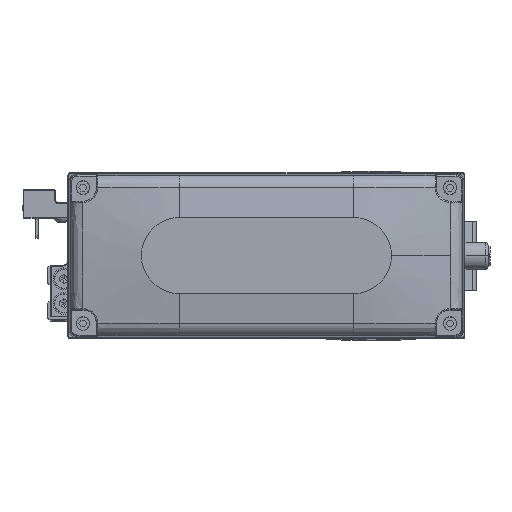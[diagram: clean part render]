
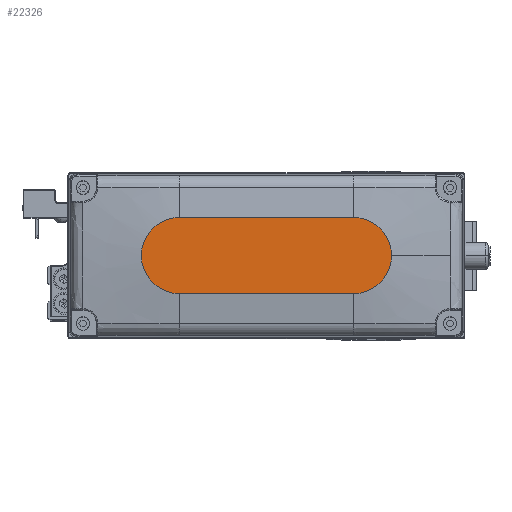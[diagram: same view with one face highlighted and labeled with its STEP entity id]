
A CAD part, top view. The second image highlights one B-rep face of the part: STEP entity #22326.
In plain terms, the highlighted planar face has unit normal (0, 0, 1).
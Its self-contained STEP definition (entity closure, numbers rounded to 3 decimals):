
#1236 = EDGE_CURVE ( 'NONE', #34013, #29548, #5911, .T. ) ;
#2373 = DIRECTION ( 'NONE',  ( 0., 0., 1. ) ) ;
#3106 = DIRECTION ( 'NONE',  ( 1., 0., 0. ) ) ;
#3791 = FACE_OUTER_BOUND ( 'NONE', #22240, .T. ) ;
#4772 = CARTESIAN_POINT ( 'NONE',  ( -32., 14., 35. ) ) ;
#5405 = ORIENTED_EDGE ( 'NONE', *, *, #42182, .T. ) ;
#5587 = CARTESIAN_POINT ( 'NONE',  ( -32., 0., 35. ) ) ;
#5911 = LINE ( 'NONE', #19418, #6299 ) ;
#6299 = VECTOR ( 'NONE', #32964, 1000. ) ;
#8098 = CIRCLE ( 'NONE', #32900, 14. ) ;
#10668 = DIRECTION ( 'NONE',  ( 0., 0., 1. ) ) ;
#11093 = DIRECTION ( 'NONE',  ( 1., 0., 0. ) ) ;
#12292 = AXIS2_PLACEMENT_3D ( 'NONE', #41079, #10668, #24179 ) ;
#13777 = ORIENTED_EDGE ( 'NONE', *, *, #1236, .T. ) ;
#14414 = AXIS2_PLACEMENT_3D ( 'NONE', #32748, #2373, #15889 ) ;
#14687 = CARTESIAN_POINT ( 'NONE',  ( -32., -14., 35. ) ) ;
#15889 = DIRECTION ( 'NONE',  ( 1., 0., 0. ) ) ;
#17417 = EDGE_CURVE ( 'NONE', #26121, #34478, #27945, .T. ) ;
#18158 = CIRCLE ( 'NONE', #42990, 14. ) ;
#19091 = DIRECTION ( 'NONE',  ( 0., 0., 1. ) ) ;
#19418 = CARTESIAN_POINT ( 'NONE',  ( -32., 14., 35. ) ) ;
#19953 = CARTESIAN_POINT ( 'NONE',  ( 32., 0., 35. ) ) ;
#22240 = EDGE_LOOP ( 'NONE', ( #13777, #26051, #42339, #41341, #5405 ) ) ;
#22326 = ADVANCED_FACE ( 'NONE', ( #3791 ), #27541, .T. ) ;
#22337 = VERTEX_POINT ( 'NONE', #31093 ) ;
#24179 = DIRECTION ( 'NONE',  ( 1., 0., 0. ) ) ;
#26051 = ORIENTED_EDGE ( 'NONE', *, *, #40081, .T. ) ;
#26121 = VERTEX_POINT ( 'NONE', #14687 ) ;
#27541 = PLANE ( 'NONE',  #12292 ) ;
#27945 = LINE ( 'NONE', #41482, #29482 ) ;
#28733 = CARTESIAN_POINT ( 'NONE',  ( 32., 14., 35. ) ) ;
#29482 = VECTOR ( 'NONE', #11093, 1000. ) ;
#29548 = VERTEX_POINT ( 'NONE', #4772 ) ;
#29934 = CARTESIAN_POINT ( 'NONE',  ( 32., -14., 35. ) ) ;
#31093 = CARTESIAN_POINT ( 'NONE',  ( 46., 0., 35. ) ) ;
#32628 = DIRECTION ( 'NONE',  ( 1., 0., 0. ) ) ;
#32748 = CARTESIAN_POINT ( 'NONE',  ( 32., 0., 35. ) ) ;
#32900 = AXIS2_PLACEMENT_3D ( 'NONE', #19953, #33494, #3106 ) ;
#32964 = DIRECTION ( 'NONE',  ( -1., 0., 0. ) ) ;
#33494 = DIRECTION ( 'NONE',  ( 0., 0., 1. ) ) ;
#33557 = CIRCLE ( 'NONE', #14414, 14. ) ;
#34013 = VERTEX_POINT ( 'NONE', #28733 ) ;
#34478 = VERTEX_POINT ( 'NONE', #29934 ) ;
#40081 = EDGE_CURVE ( 'NONE', #29548, #26121, #18158, .T. ) ;
#41079 = CARTESIAN_POINT ( 'NONE',  ( 0., 0., 35. ) ) ;
#41341 = ORIENTED_EDGE ( 'NONE', *, *, #42772, .T. ) ;
#41482 = CARTESIAN_POINT ( 'NONE',  ( -32., -14., 35. ) ) ;
#42182 = EDGE_CURVE ( 'NONE', #22337, #34013, #33557, .T. ) ;
#42339 = ORIENTED_EDGE ( 'NONE', *, *, #17417, .T. ) ;
#42772 = EDGE_CURVE ( 'NONE', #34478, #22337, #8098, .T. ) ;
#42990 = AXIS2_PLACEMENT_3D ( 'NONE', #5587, #19091, #32628 ) ;
